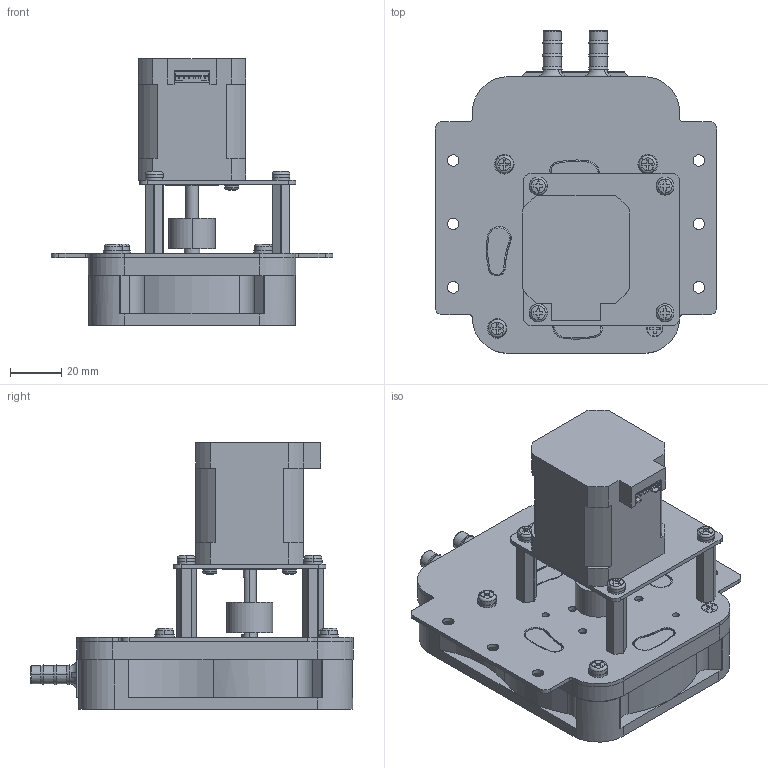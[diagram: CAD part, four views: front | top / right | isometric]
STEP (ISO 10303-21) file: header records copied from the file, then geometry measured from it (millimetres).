
FILE_DESCRIPTION (( 'STEP AP214' ), '1' );
FILE_NAME ('RP-Sxxxx-VS-step.STEP', '2025-04-28T04:46:45', ( '' ), ( '' ), 'SwSTEP 2.0', 'SolidWorks 2024', '' );
FILE_SCHEMA (( 'AUTOMOTIVE_DESIGN' ));
Length unit declared in the file: millimetre
Products named in the file (22): スペーサー取り付けねじ_M4x8　P2; BOLTNSET4-8; S6B-PH-K-S; ベース_AR-BA12A - forWeb; RP-S MOTOR軸 - forWeb; M4 スプリングワッシャ; AR-BL61_MOTOR取付板（S); SPWASHNSET4-8; ジョイナー_AR-JN06-1 - forWeb; M4x8皿アルミサッシ用; カバー止めねじ_M4x16_SUSトラス; RP-Sxxxx-VS-step; NSET4-8; 取付板_AR-BL29; XYN3+6P2_CSPPNZP-ST-M3-6; CSPPNZP-ST-M3-6-1_CSPPNZP-ST-M3-6-1; CSPPNZP-ST-M3-6-2_CSPPNZP-ST-M3-6-2; 六角スペーサ軸 - 27 -両雌ねじ; M4スリムヘッドねじ; AR-JK47_結合軸; カバー_RP-CA16 - forWeb; PMSA-B42D3_3D
Assembly tree (42 placements, depth 3):
  RP-Sxxxx-VS-step
    取付板_AR-BL29
    スペーサー取り付けねじ_M4x8　P2  x3
    ベース_AR-BA12A - forWeb
    ジョイナー_AR-JN06-1 - forWeb
    カバー_RP-CA16 - forWeb
    カバー止めねじ_M4x16_SUSトラス  x4
    M4 スプリングワッシャ  x4
    M4スリムヘッドねじ  x4
    RP-S MOTOR軸 - forWeb
    M4x8皿アルミサッシ用
    PMSA-B42D3_3D
    六角スペーサ軸 - 27 -両雌ねじ  x5
    AR-BL61_MOTOR取付板（S)
    NSET4-8  x4
      BOLTNSET4-8
      SPWASHNSET4-8
    AR-JK47_結合軸
    XYN3+6P2_CSPPNZP-ST-M3-6  x4
      CSPPNZP-ST-M3-6-1_CSPPNZP-ST-M3-6-1
      CSPPNZP-ST-M3-6-2_CSPPNZP-ST-M3-6-2
    S6B-PH-K-S
Bounding box: 110 x 126 x 104.2 mm (x, y, z)
Volume: 296793.6 mm3; surface area: 113341 mm2
Topology: 46 solids, 46 shells, 1716 faces, 4358 edges, 2835 vertices
Faces by surface type: plane 772, cylinder 725, cone 106, torus 81, sphere 24, bspline 8
Entity records: 35635 total; most frequent: CARTESIAN_POINT 7004, DIRECTION 6061, ORIENTED_EDGE 5574, EDGE_CURVE 2787, AXIS2_PLACEMENT_3D 2290, VERTEX_POINT 1816, LINE 1481, VECTOR 1481
